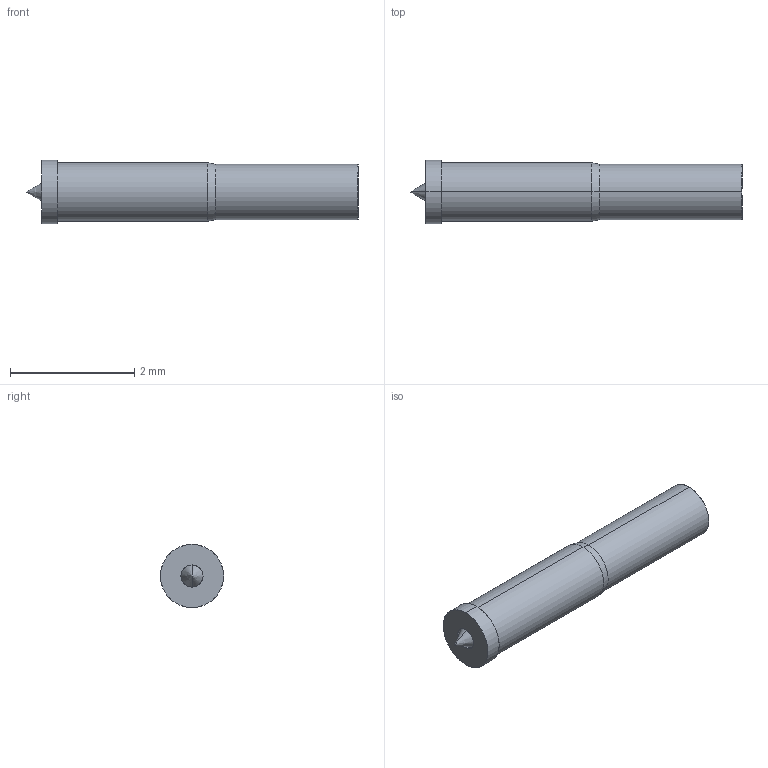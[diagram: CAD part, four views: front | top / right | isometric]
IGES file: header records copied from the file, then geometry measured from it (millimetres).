
Start section: SolidWorks IGES file using analytic representation for surfaces
Global section: file name: O:\PYLON\IGES FILES\A-S\A-S-C REC'D.IGS; native system: SolidWorks 2015; preprocessor: SolidWorks 2015; author: kgolden; date: 171023.150506; units: inch
Bounding box: 5.33 x 1.02 x 1.02 mm (x, y, z)
Surface area: 18.7 mm2 (no closed solid volume)
Topology: 0 solids, 0 shells, 18 faces, 168 edges, 166 vertices
Faces by surface type: revolution 14, bspline 4
